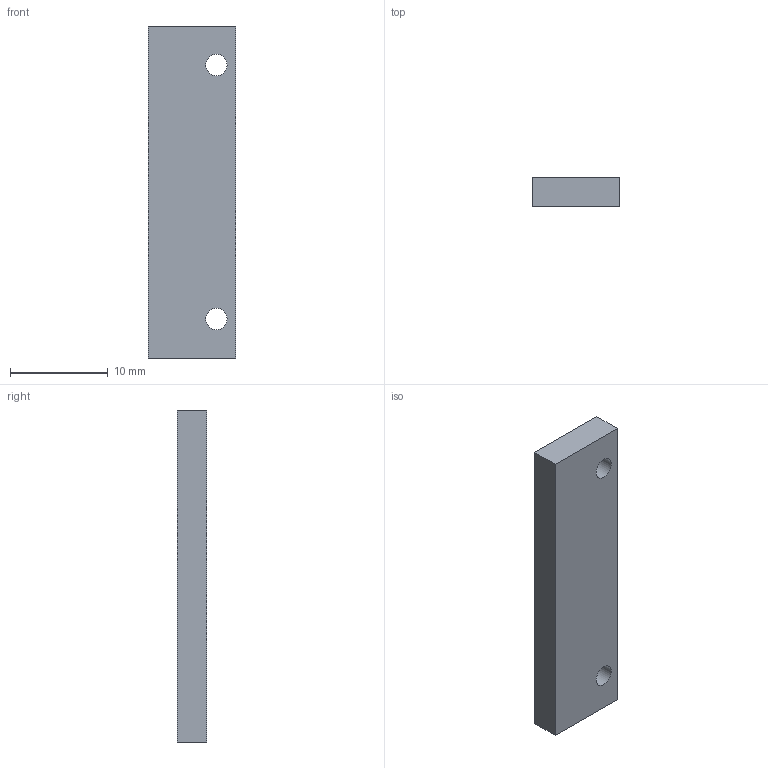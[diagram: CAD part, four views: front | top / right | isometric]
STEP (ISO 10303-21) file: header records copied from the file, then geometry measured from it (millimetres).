
FILE_DESCRIPTION(('Open CASCADE Model'),'2;1');
FILE_NAME('Open CASCADE Shape Model','2026-10-26T16:15:20',('Author'),( 'Open CASCADE'),'Open CASCADE STEP processor 7.8','Open CASCADE 7.8' ,'Unknown');
FILE_SCHEMA(('AUTOMOTIVE_DESIGN { 1 0 10303 214 1 1 1 1 }'));
Length unit declared in the file: millimetre
Products named in the file (1): Open CASCADE STEP translator 7.8 12
Bounding box: 9 x 3 x 34 mm (x, y, z)
Volume: 895.2 mm3; surface area: 896.3 mm2
Topology: 1 solids, 1 shells, 8 faces, 18 edges, 12 vertices
Faces by surface type: plane 6, cylinder 2
Full cylindrical faces by diameter (mm): 2.2 x2
Entity records: 478 total; most frequent: DIRECTION 76, CARTESIAN_POINT 75, LINE 46, VECTOR 46, ORIENTED_EDGE 36, PCURVE 36, DEFINITIONAL_REPRESENTATION 36, EDGE_CURVE 18
